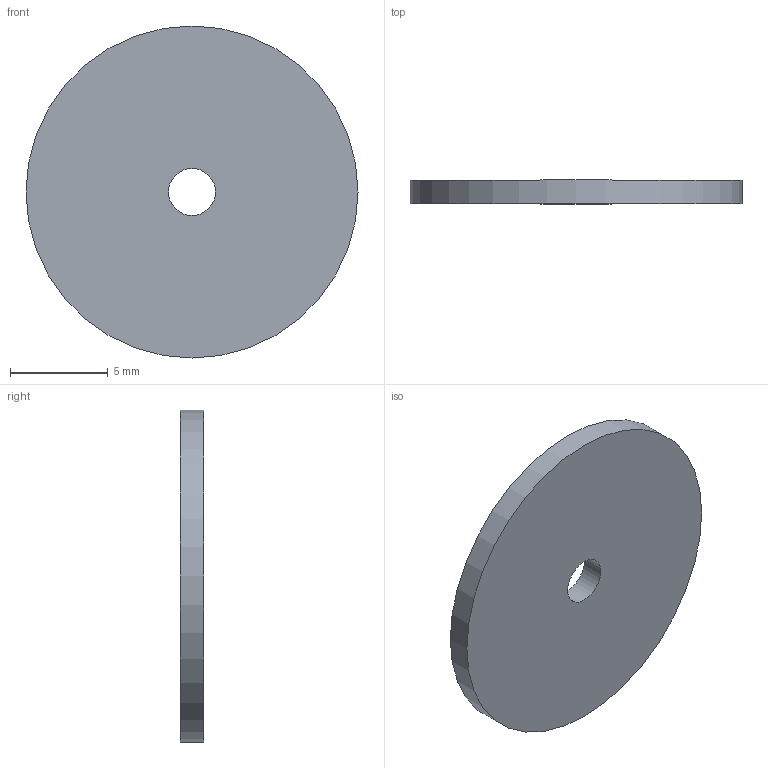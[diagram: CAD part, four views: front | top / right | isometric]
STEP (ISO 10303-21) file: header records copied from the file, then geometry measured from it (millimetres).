
FILE_DESCRIPTION(('Open CASCADE Model'),'2;1');
FILE_NAME('Open CASCADE Shape Model','2026-10-20T15:49:48',('Author'),( 'Open CASCADE'),'Open CASCADE STEP processor 7.8','Open CASCADE 7.8' ,'Unknown');
FILE_SCHEMA(('AUTOMOTIVE_DESIGN { 1 0 10303 214 1 1 1 1 }'));
Length unit declared in the file: millimetre
Products named in the file (1): Open CASCADE STEP translator 7.8 14
Bounding box: 17 x 1.2 x 17 mm (x, y, z)
Volume: 266.9 mm3; surface area: 518 mm2
Topology: 1 solids, 1 shells, 4 faces, 6 edges, 4 vertices
Faces by surface type: cylinder 2, plane 2
Full cylindrical faces by diameter (mm): 2.4 x1, 17 x1
Entity records: 186 total; most frequent: DIRECTION 32, CARTESIAN_POINT 27, ORIENTED_EDGE 12, PCURVE 12, DEFINITIONAL_REPRESENTATION 12, LINE 10, VECTOR 10, AXIS2_PLACEMENT_3D 9
